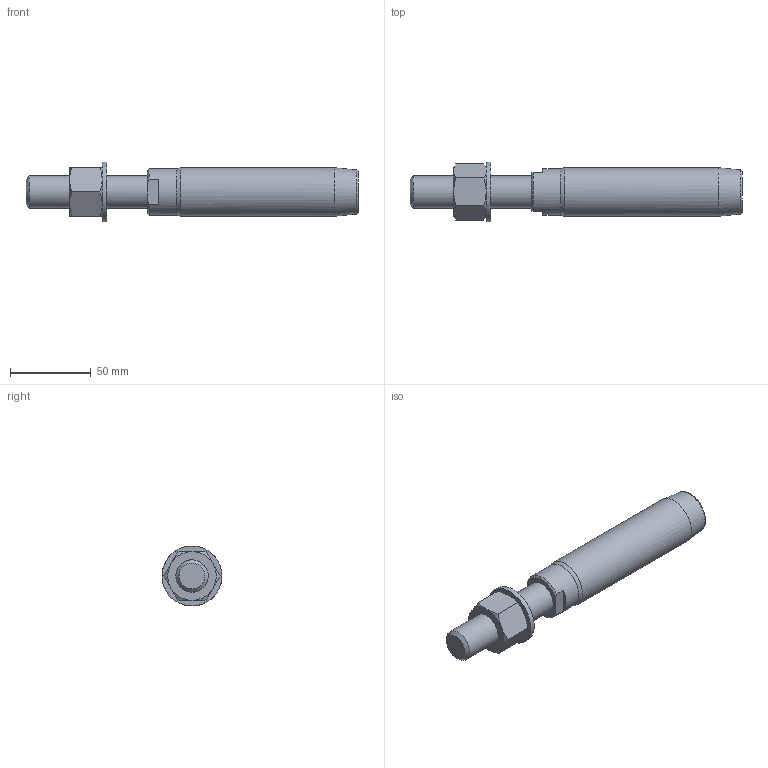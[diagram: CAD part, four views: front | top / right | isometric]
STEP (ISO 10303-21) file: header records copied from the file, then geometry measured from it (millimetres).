
FILE_DESCRIPTION(/* description */ (''),/* implementation_level */ '2;1');
FILE_NAME(/* name */ 'FLT 12_1,4462',/* time_stamp */ '2023-05-23T15:58:04+02:00',/* author */ (''),/* organization */ (''),/* preprocessor_version */ 'ST-DEVELOPER v16.5',/* originating_system */ 'Rhino 7.22',/* authorisation */ '');
FILE_SCHEMA (('CONFIG_CONTROL_DESIGN'));
Length unit declared in the file: millimetre
Products named in the file (1): Document
Bounding box: 205 x 36.99 x 36.99 mm (x, y, z)
Volume: 125651 mm3; surface area: 24015.7 mm2
Topology: 3 solids, 3 shells, 43 faces, 103 edges, 67 vertices
Faces by surface type: bspline 20, plane 17, cylinder 6
Full cylindrical faces by diameter (mm): 17.294 x1, 20 x1, 21 x1, 28.6 x1, 30 x1, 37 x1
Entity records: 1586 total; most frequent: CARTESIAN_POINT 881, ORIENTED_EDGE 206, EDGE_CURVE 103, VERTEX_POINT 67, EDGE_LOOP 48, ADVANCED_FACE 43, FACE_OUTER_BOUND 43, DIRECTION 27
